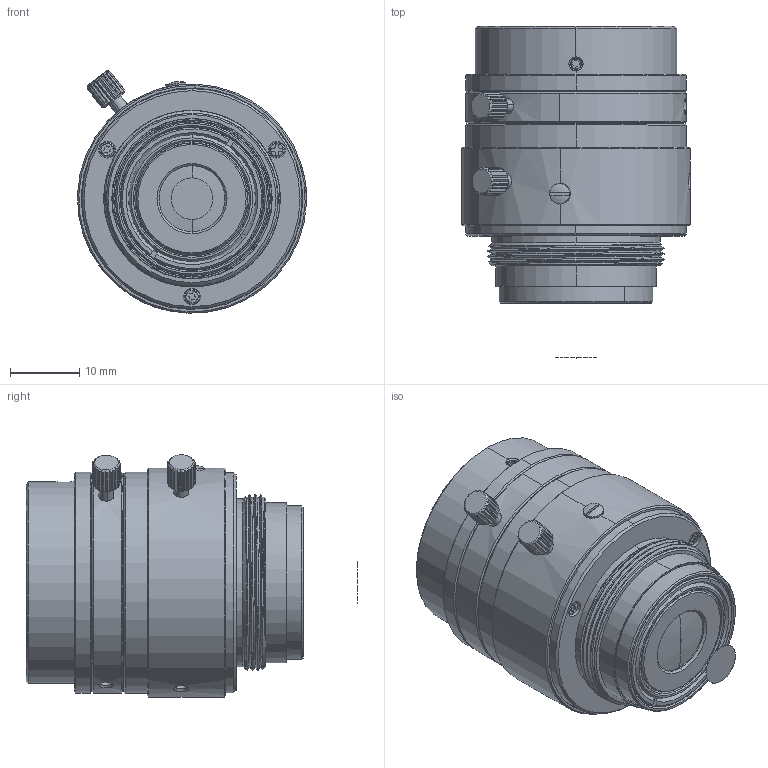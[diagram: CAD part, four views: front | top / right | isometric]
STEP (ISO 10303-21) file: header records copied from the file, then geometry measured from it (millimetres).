
FILE_DESCRIPTION((''),'2;1');
FILE_NAME('MVL-HF2528M-6MPE_ASM','2021-02-02T16:00:34',('dihaoping'),(''),'CREO PARAMETRIC BY PTC INC, 2017260','CREO PARAMETRIC BY PTC INC, 2017260','');
FILE_SCHEMA(('CONFIG_CONTROL_DESIGN'));
Length unit declared in the file: millimetre
Products named in the file (29): MVL-HF2528M-6MPE-201_30_1; MVL-HF2528M-6MPE-302-ZP_ASM_4_1; MVL-HF2528M-6MPE-101_5_1; MVL-HF2528M-6MPE-G1_3_1; MVL-HF2528M-6MPE-102_5_1; MVL-HF2528M-6MPE-01_ASM_10_1_ASM; MVL-HF2528M-6MPE-407_2_1; MVL-HF2528M-6MPE-401_19_1; MVL-HF2528M-6MPE-109_15_1; MVL-HF2528M-6MPE-G6_3_1; MVL-HF2528M-6MPE-108_7_1; MVL-HF2528M-6MPE-406_2_1; MVL-HF2528M-6MPE-405_4_1; MVL-HF2528M-6MPE-02_ASM_13_1_ASM; MVL-HF2528M-6MPE5-301_8_1; MVL-HF2528M-6MPE-308_7_1; MVL-HF2528M-6MPE-202_18_1; MVL-HF2528M-6MPE-403_18_1; MVL-HF2528M-6MPE-404_7_1; MVL-HF2528M-6MPE-403-ZP_ASM_2_1_ASM; MVL-HF2528M-6MPE-203_23_1_2; MVL-HF2528M-6MPE-402_4_1; MVL-HF2528M-6MPE-504_3_1; MVL-HF2528M-6MPE-501_2_1_2; MVL-HF2528M-6MPE-502_6_1_2; MVL-HF2528M-6MPE-503_2_1; MVL-HF2528M-6MPE-XM_2_1; MVL-HF2528M-6MPE-ZP_ASM_69_1_ASM; MVL-HF2528M-6MPE_ASM
Assembly tree (37 placements, depth 4):
  MVL-HF2528M-6MPE_ASM
    MVL-HF2528M-6MPE-ZP_ASM_69_1_ASM
      MVL-HF2528M-6MPE-201_30_1
      MVL-HF2528M-6MPE-302-ZP_ASM_4_1
      MVL-HF2528M-6MPE-01_ASM_10_1_ASM
        MVL-HF2528M-6MPE-101_5_1
        MVL-HF2528M-6MPE-G1_3_1
        MVL-HF2528M-6MPE-102_5_1
      MVL-HF2528M-6MPE-407_2_1
      MVL-HF2528M-6MPE-401_19_1
      MVL-HF2528M-6MPE-02_ASM_13_1_ASM
        MVL-HF2528M-6MPE-109_15_1
        MVL-HF2528M-6MPE-G6_3_1
        MVL-HF2528M-6MPE-108_7_1
        MVL-HF2528M-6MPE-406_2_1  x3
        MVL-HF2528M-6MPE-405_4_1  x3
      MVL-HF2528M-6MPE5-301_8_1
      MVL-HF2528M-6MPE-308_7_1
      MVL-HF2528M-6MPE-202_18_1
      MVL-HF2528M-6MPE-403-ZP_ASM_2_1_ASM
        MVL-HF2528M-6MPE-403_18_1
        MVL-HF2528M-6MPE-404_7_1
      MVL-HF2528M-6MPE-203_23_1_2
      MVL-HF2528M-6MPE-402_4_1
      MVL-HF2528M-6MPE-504_3_1
      MVL-HF2528M-6MPE-501_2_1_2  x2
      MVL-HF2528M-6MPE-502_6_1_2  x3
      MVL-HF2528M-6MPE-503_2_1  x3
      MVL-HF2528M-6MPE-XM_2_1
Bounding box: 32.98 x 47.77 x 34.9 mm (x, y, z)
Volume: 16161 mm3; surface area: 27153.2 mm2
Topology: 32 solids, 32 shells, 1175 faces, 2950 edges, 1863 vertices
Faces by surface type: cylinder 424, plane 338, cone 285, bspline 106, torus 12, sphere 10
Entity records: 39736 total; most frequent: CARTESIAN_POINT 17137, ORIENTED_EDGE 4634, DIRECTION 4605, EDGE_CURVE 2317, AXIS2_PLACEMENT_3D 1853, VERTEX_POINT 1469, EDGE_LOOP 1062, FACE_OUTER_BOUND 929
